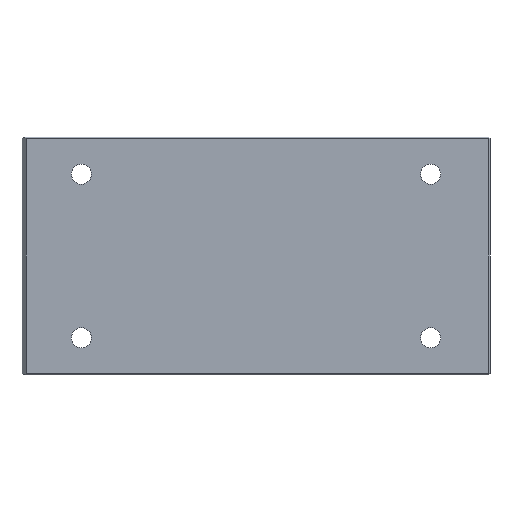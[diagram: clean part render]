
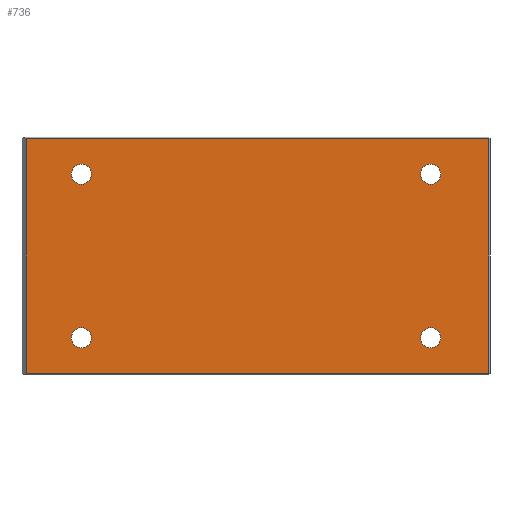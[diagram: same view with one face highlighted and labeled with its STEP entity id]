
A CAD part, front view. The second image highlights one B-rep face of the part: STEP entity #736.
In plain terms, the highlighted planar face has unit normal (0, -1, 0).
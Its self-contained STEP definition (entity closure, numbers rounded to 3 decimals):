
#27=FACE_BOUND('',#143,.T.);
#28=FACE_BOUND('',#144,.T.);
#29=FACE_BOUND('',#145,.T.);
#30=FACE_BOUND('',#146,.T.);
#57=PLANE('',#819);
#95=FACE_OUTER_BOUND('',#142,.T.);
#142=EDGE_LOOP('',(#611,#612,#613,#614));
#143=EDGE_LOOP('',(#615));
#144=EDGE_LOOP('',(#616));
#145=EDGE_LOOP('',(#617));
#146=EDGE_LOOP('',(#618));
#177=LINE('',#1116,#242);
#183=LINE('',#1127,#248);
#186=LINE('',#1133,#251);
#218=LINE('',#1203,#283);
#242=VECTOR('',#910,10.);
#248=VECTOR('',#920,10.);
#251=VECTOR('',#925,10.);
#283=VECTOR('',#997,10.);
#311=CIRCLE('',#820,6.75);
#312=CIRCLE('',#821,6.75);
#313=CIRCLE('',#822,6.75);
#314=CIRCLE('',#823,6.75);
#341=VERTEX_POINT('',#1109);
#343=VERTEX_POINT('',#1114);
#346=VERTEX_POINT('',#1122);
#347=VERTEX_POINT('',#1129);
#367=VERTEX_POINT('',#1210);
#368=VERTEX_POINT('',#1212);
#369=VERTEX_POINT('',#1214);
#370=VERTEX_POINT('',#1216);
#407=EDGE_CURVE('',#343,#341,#177,.T.);
#413=EDGE_CURVE('',#341,#346,#183,.T.);
#416=EDGE_CURVE('',#346,#347,#186,.T.);
#452=EDGE_CURVE('',#347,#343,#218,.T.);
#456=EDGE_CURVE('',#367,#367,#311,.T.);
#457=EDGE_CURVE('',#368,#368,#312,.T.);
#458=EDGE_CURVE('',#369,#369,#313,.T.);
#459=EDGE_CURVE('',#370,#370,#314,.T.);
#611=ORIENTED_EDGE('',*,*,#407,.F.);
#612=ORIENTED_EDGE('',*,*,#452,.F.);
#613=ORIENTED_EDGE('',*,*,#416,.F.);
#614=ORIENTED_EDGE('',*,*,#413,.F.);
#615=ORIENTED_EDGE('',*,*,#456,.T.);
#616=ORIENTED_EDGE('',*,*,#457,.T.);
#617=ORIENTED_EDGE('',*,*,#458,.T.);
#618=ORIENTED_EDGE('',*,*,#459,.T.);
#736=ADVANCED_FACE('',(#95,#27,#28,#29,#30),#57,.F.);
#819=AXIS2_PLACEMENT_3D('',#1209,#1005,#1006);
#820=AXIS2_PLACEMENT_3D('',#1211,#1007,#1008);
#821=AXIS2_PLACEMENT_3D('',#1213,#1009,#1010);
#822=AXIS2_PLACEMENT_3D('',#1215,#1011,#1012);
#823=AXIS2_PLACEMENT_3D('',#1217,#1013,#1014);
#910=DIRECTION('',(1.,0.,0.));
#920=DIRECTION('',(0.,0.,-1.));
#925=DIRECTION('',(-1.,0.,0.));
#997=DIRECTION('',(0.,0.,1.));
#1005=DIRECTION('center_axis',(0.,1.,0.));
#1006=DIRECTION('ref_axis',(0.,0.,1.));
#1007=DIRECTION('center_axis',(0.,1.,0.));
#1008=DIRECTION('ref_axis',(1.,0.,0.));
#1009=DIRECTION('center_axis',(0.,1.,0.));
#1010=DIRECTION('ref_axis',(1.,0.,0.));
#1011=DIRECTION('center_axis',(0.,1.,0.));
#1012=DIRECTION('ref_axis',(1.,0.,0.));
#1013=DIRECTION('center_axis',(0.,1.,0.));
#1014=DIRECTION('ref_axis',(1.,0.,0.));
#1109=CARTESIAN_POINT('',(314.,0.,159.));
#1114=CARTESIAN_POINT('',(3.,0.,159.));
#1116=CARTESIAN_POINT('',(78.75,0.,159.));
#1122=CARTESIAN_POINT('',(314.,0.,1.));
#1127=CARTESIAN_POINT('',(314.,0.,120.));
#1129=CARTESIAN_POINT('',(3.,0.,1.));
#1133=CARTESIAN_POINT('',(236.25,0.,1.));
#1203=CARTESIAN_POINT('',(3.,0.,40.));
#1209=CARTESIAN_POINT('Origin',(157.5,0.,80.));
#1210=CARTESIAN_POINT('',(33.25,0.,135.));
#1211=CARTESIAN_POINT('Origin',(40.,0.,135.));
#1212=CARTESIAN_POINT('',(268.25,0.,25.));
#1213=CARTESIAN_POINT('Origin',(275.,0.,25.));
#1214=CARTESIAN_POINT('',(268.25,0.,135.));
#1215=CARTESIAN_POINT('Origin',(275.,0.,135.));
#1216=CARTESIAN_POINT('',(33.25,0.,25.));
#1217=CARTESIAN_POINT('Origin',(40.,0.,25.));
